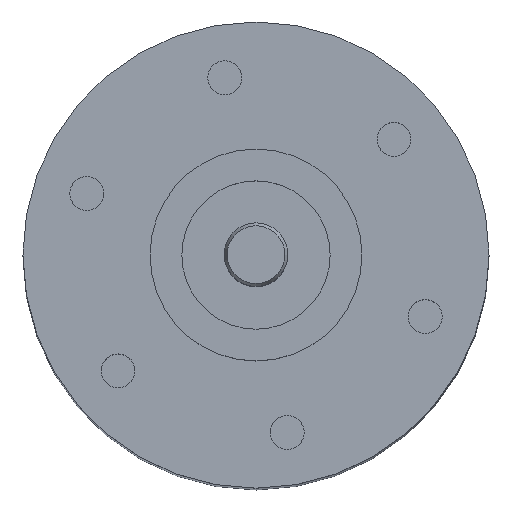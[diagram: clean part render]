
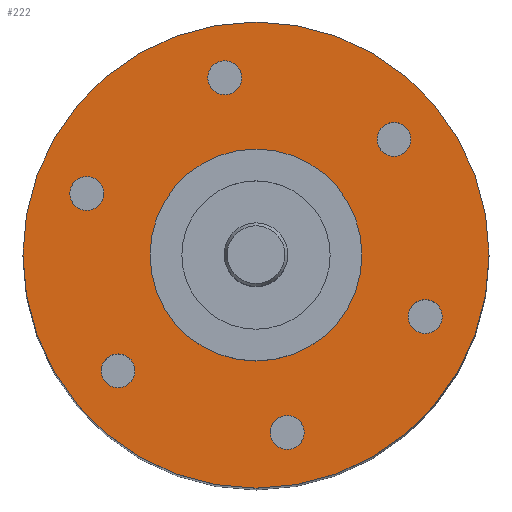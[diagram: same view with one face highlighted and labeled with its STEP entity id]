
A CAD part, top view. The second image highlights one B-rep face of the part: STEP entity #222.
In plain terms, the highlighted planar face has unit normal (0, 0, 1).
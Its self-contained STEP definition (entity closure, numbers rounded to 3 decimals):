
#191=PLANE('',#940);
#222=ADVANCED_FACE('',(#310,#311,#312,#313,#314,#315,#316,#317),#191,.T.);
#310=FACE_BOUND('',#362,.T.);
#311=FACE_BOUND('',#363,.T.);
#312=FACE_BOUND('',#364,.T.);
#313=FACE_BOUND('',#365,.T.);
#314=FACE_BOUND('',#366,.T.);
#315=FACE_BOUND('',#367,.T.);
#316=FACE_BOUND('',#368,.T.);
#317=FACE_BOUND('',#369,.T.);
#362=EDGE_LOOP('',(#450));
#363=EDGE_LOOP('',(#451));
#364=EDGE_LOOP('',(#452));
#365=EDGE_LOOP('',(#453));
#366=EDGE_LOOP('',(#454));
#367=EDGE_LOOP('',(#455));
#368=EDGE_LOOP('',(#456));
#369=EDGE_LOOP('',(#457));
#450=ORIENTED_EDGE('',*,*,#761,.T.);
#451=ORIENTED_EDGE('',*,*,#762,.T.);
#452=ORIENTED_EDGE('',*,*,#763,.T.);
#453=ORIENTED_EDGE('',*,*,#764,.T.);
#454=ORIENTED_EDGE('',*,*,#765,.T.);
#455=ORIENTED_EDGE('',*,*,#766,.T.);
#456=ORIENTED_EDGE('',*,*,#767,.F.);
#457=ORIENTED_EDGE('',*,*,#759,.F.);
#674=VERTEX_POINT('',#1338);
#676=VERTEX_POINT('',#1343);
#677=VERTEX_POINT('',#1345);
#678=VERTEX_POINT('',#1347);
#679=VERTEX_POINT('',#1349);
#680=VERTEX_POINT('',#1351);
#681=VERTEX_POINT('',#1353);
#682=VERTEX_POINT('',#1355);
#759=EDGE_CURVE('',#674,#674,#872,.T.);
#761=EDGE_CURVE('',#676,#676,#874,.T.);
#762=EDGE_CURVE('',#677,#677,#875,.T.);
#763=EDGE_CURVE('',#678,#678,#876,.T.);
#764=EDGE_CURVE('',#679,#679,#877,.T.);
#765=EDGE_CURVE('',#680,#680,#878,.T.);
#766=EDGE_CURVE('',#681,#681,#879,.T.);
#767=EDGE_CURVE('',#682,#682,#880,.T.);
#872=CIRCLE('',#930,11.);
#874=CIRCLE('',#933,0.8);
#875=CIRCLE('',#934,0.8);
#876=CIRCLE('',#935,0.8);
#877=CIRCLE('',#936,0.8);
#878=CIRCLE('',#937,0.8);
#879=CIRCLE('',#938,0.8);
#880=CIRCLE('',#939,5.);
#930=AXIS2_PLACEMENT_3D('',#1337,#1048,#1049);
#933=AXIS2_PLACEMENT_3D('',#1342,#1054,#1055);
#934=AXIS2_PLACEMENT_3D('',#1344,#1056,#1057);
#935=AXIS2_PLACEMENT_3D('',#1346,#1058,#1059);
#936=AXIS2_PLACEMENT_3D('',#1348,#1060,#1061);
#937=AXIS2_PLACEMENT_3D('',#1350,#1062,#1063);
#938=AXIS2_PLACEMENT_3D('',#1352,#1064,#1065);
#939=AXIS2_PLACEMENT_3D('',#1354,#1066,#1067);
#940=AXIS2_PLACEMENT_3D('',#1356,#1068,#1069);
#1048=DIRECTION('',(0.,0.,-1.));
#1049=DIRECTION('',(-0.985,-0.174,0.));
#1054=DIRECTION('',(0.,0.,-1.));
#1055=DIRECTION('',(-0.643,0.766,0.));
#1056=DIRECTION('',(0.,0.,-1.));
#1057=DIRECTION('',(0.342,0.94,0.));
#1058=DIRECTION('',(0.,0.,-1.));
#1059=DIRECTION('',(0.985,0.174,0.));
#1060=DIRECTION('',(0.,0.,-1.));
#1061=DIRECTION('',(0.643,-0.766,0.));
#1062=DIRECTION('',(0.,0.,-1.));
#1063=DIRECTION('',(-0.342,-0.94,0.));
#1064=DIRECTION('',(0.,0.,-1.));
#1065=DIRECTION('',(-0.985,-0.174,0.));
#1066=DIRECTION('',(0.,0.,1.));
#1067=DIRECTION('',(0.985,0.174,0.));
#1068=DIRECTION('',(0.,0.,1.));
#1069=DIRECTION('',(0.985,0.174,0.));
#1337=CARTESIAN_POINT('',(0.,0.,0.));
#1338=CARTESIAN_POINT('',(-10.833,-1.91,0.));
#1342=CARTESIAN_POINT('',(6.511,5.464,0.));
#1343=CARTESIAN_POINT('',(5.997,6.077,0.));
#1344=CARTESIAN_POINT('',(7.987,-2.907,0.));
#1345=CARTESIAN_POINT('',(8.261,-2.155,0.));
#1346=CARTESIAN_POINT('',(1.476,-8.371,0.));
#1347=CARTESIAN_POINT('',(2.264,-8.232,0.));
#1348=CARTESIAN_POINT('',(-6.511,-5.464,0.));
#1349=CARTESIAN_POINT('',(-5.997,-6.077,0.));
#1350=CARTESIAN_POINT('',(-7.987,2.907,0.));
#1351=CARTESIAN_POINT('',(-8.261,2.155,0.));
#1352=CARTESIAN_POINT('',(-1.476,8.371,0.));
#1353=CARTESIAN_POINT('',(-2.264,8.232,0.));
#1354=CARTESIAN_POINT('',(0.,0.,0.));
#1355=CARTESIAN_POINT('',(4.924,0.868,0.));
#1356=CARTESIAN_POINT('',(0.,0.,0.));
